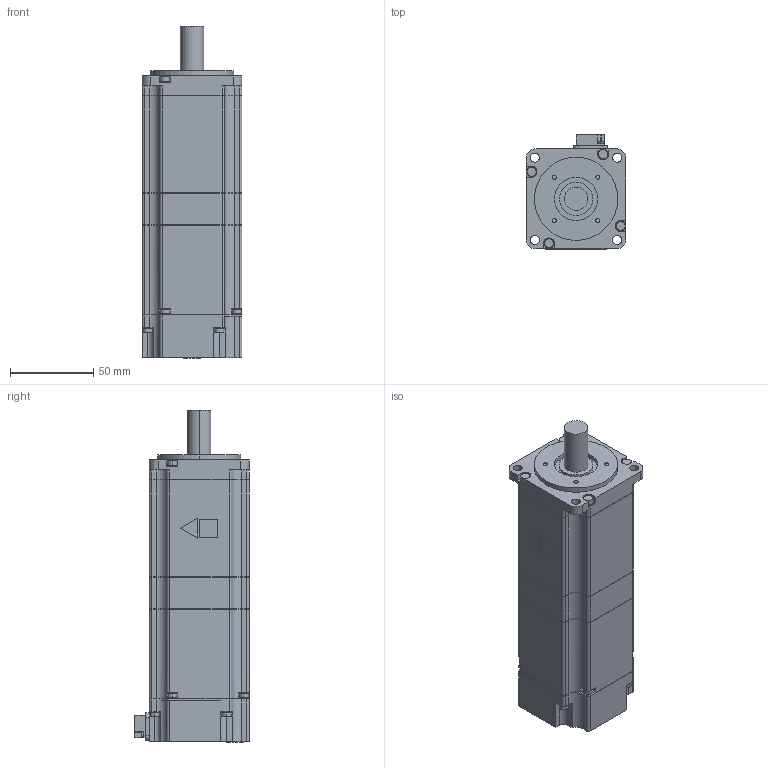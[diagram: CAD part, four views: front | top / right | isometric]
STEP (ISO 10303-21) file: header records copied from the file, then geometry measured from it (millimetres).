
FILE_DESCRIPTION (( 'STEP AP203' ), '1' );
FILE_NAME ('sgm7a_06a6a2c.STEP', '2016-11-12T04:44:36', ( '匠エンジニアリング山之内' ), ( 'TAKUMI-Engniaring' ), 'SwSTEP 2.0', 'SolidWorks 2006303', '' );
FILE_SCHEMA (( 'CONFIG_CONTROL_DESIGN' ));
Length unit declared in the file: millimetre
Products named in the file (1): sgm7a_06a6a2c
Bounding box: 60.1 x 68.8 x 199.6 mm (x, y, z)
Volume: 548272 mm3; surface area: 51769.3 mm2
Topology: 1 solids, 1 shells, 508 faces, 1334 edges, 884 vertices
Faces by surface type: plane 283, cylinder 225
Entity records: 15861 total; most frequent: DIRECTION 2818, CARTESIAN_POINT 2741, ORIENTED_EDGE 2668, EDGE_CURVE 1334, AXIS2_PLACEMENT_3D 977, VERTEX_POINT 884, VECTOR 864, LINE 864
